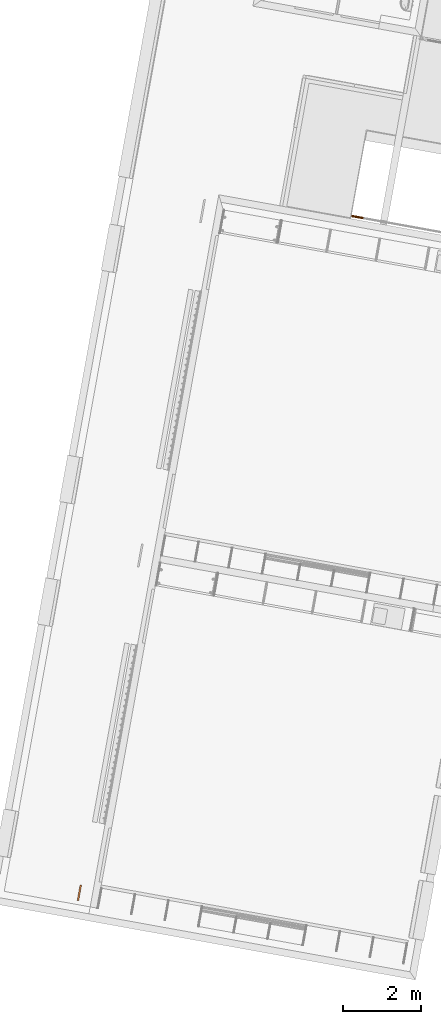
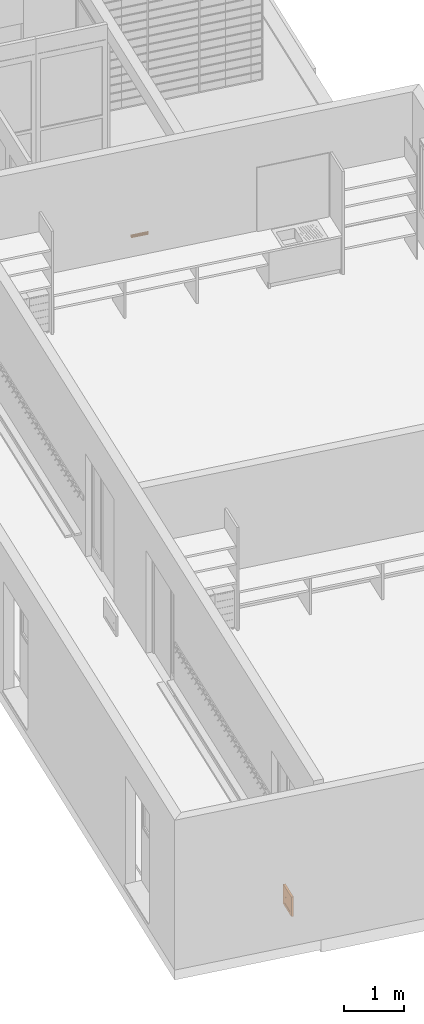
# One storey, part 51 of 52: 2 proxies, 1 element without a shape of its own.
"""IFC2X3 building model written with IfcOpenShell, lengths in metres."""

from ifc_helpers import new_model, entity, si_unit, converted_unit, derived_unit, money_unit, direction, frame, origin_with_axes, place, context, subcontext, project, spatial, open_shell, faceted_brep, surface_model, material, type_object, element, aggregate, save


model = new_model("IFC2X3")

# Units and contexts
model_context = context("Model", 3, precision=1e-05, world=origin_with_axes(), true_north=direction((0.0, 1.0)))
body_context = subcontext(model_context, "Body", "Model", "MODEL_VIEW")
ifc_project = project(units=[si_unit("LENGTHUNIT", "METRE"), si_unit("AREAUNIT", "SQUARE_METRE"), si_unit("VOLUMEUNIT", "CUBIC_METRE"), converted_unit("PLANEANGLEUNIT", "DEGREE", entity("IfcPlaneAngleMeasure", 0.0174532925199), si_unit("PLANEANGLEUNIT", "RADIAN"), dimensions=[0, 0, 0, 0, 0, 0, 0]), money_unit("CHF"), converted_unit("TIMEUNIT", "Year", entity("IfcTimeMeasure", 31556926.0), si_unit("TIMEUNIT", "SECOND"), dimensions=[0, 0, 1, 0, 0, 0, 0]), si_unit("MASSUNIT", "GRAM", prefix="KILO"), si_unit("THERMODYNAMICTEMPERATUREUNIT", "DEGREE_CELSIUS"), si_unit("LUMINOUSINTENSITYUNIT", "LUMEN"), si_unit("ENERGYUNIT", "JOULE", prefix="MEGA"), derived_unit("THERMALCONDUCTANCEUNIT", [(si_unit("POWERUNIT", "WATT"), 1), (si_unit("LENGTHUNIT", "METRE"), -1), (si_unit("THERMODYNAMICTEMPERATUREUNIT", "KELVIN"), -1)]), derived_unit("SPECIFICHEATCAPACITYUNIT", [(si_unit("ENERGYUNIT", "JOULE"), 1), (si_unit("MASSUNIT", "GRAM", prefix="KILO"), -1), (si_unit("THERMODYNAMICTEMPERATUREUNIT", "KELVIN"), -1)]), derived_unit("MASSDENSITYUNIT", [(si_unit("MASSUNIT", "GRAM", prefix="KILO"), 1), (si_unit("VOLUMEUNIT", "CUBIC_METRE"), -1)])], contexts=[model_context])

# Site, building, storey
site_placement = place(None, frame((0.0, 0.0, 0.0), z_axis=(0.0, 0.0, 1.0), x_axis=(-0.177771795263, -0.984071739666, 0.0)))
site = spatial("IfcSite", under=ifc_project, at=site_placement, Name="Site", CompositionType="ELEMENT")
building_placement = place(site_placement, origin_with_axes())
building = spatial("IfcBuilding", under=site, at=building_placement, Name="Bâtiment", CompositionType="ELEMENT")
storey_placement = place(building_placement, frame((0.0, 0.0, 3.2), z_axis=(0.0, 0.0, 1.0), x_axis=(1.0, 0.0, 0.0)))
storey = spatial("IfcBuildingStorey", under=building, at=storey_placement, Name="R+1", CompositionType="ELEMENT", Elevation=3.2)

# Proxies
building_element_proxy_type_1 = type_object("IfcBuildingElementProxyType", Name="Type de garde-corps", PredefinedType="NOTDEFINED")
proxy_1_placement = place(storey_placement, frame((0.0, 0.0, -3.2), z_axis=(0.0, 0.0, 1.0), x_axis=(1.0, 0.0, 0.0)))
proxy_1 = element("IfcBuildingElementProxy", 1, at=proxy_1_placement, inside=storey, type_object=building_element_proxy_type_1, Name="garde-corps esc")
ifc_material_1 = material(Name="Bois - Massif 01")
building_element_proxy_type_2 = type_object("IfcBuildingElementProxyType", Name="IfcBuildingElementProxy", PredefinedType="NOTDEFINED")
proxy_2_placement = place(proxy_1_placement, frame((146.120096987, -153.045380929, 4.05757359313), z_axis=(0.0, 0.0, 1.0), x_axis=(1.0, 0.0, 0.0)))
proxy_2 = element("IfcBuildingElementProxy", 2, at=proxy_2_placement, type_object=building_element_proxy_type_2, material=ifc_material_1, Name="MOBILIER-001", context=body_context, shape_type="Brep", body=[
    faceted_brep([(-0.03, 0.149996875, 0.0424264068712), (-0.0295440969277, 0.148694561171, 0.037216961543), (-0.0295442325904, -0.15, 0.0372169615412), (-0.029544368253, 0.15129928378, 0.0476358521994), (-0.0281910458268, 0.152562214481, 0.0526870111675), (-0.0259811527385, 0.15374729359, 0.0574264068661), (-0.0229818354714, 0.154818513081, 0.0617100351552), (-0.0192842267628, 0.155743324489, 0.065407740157), (-0.0150006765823, 0.156493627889, 0.0684071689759), (-0.0102613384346, 0.157046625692, 0.0706171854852), (-0.00521021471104, 0.157385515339, 0.0719706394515), (-7.8124998e-07, 0.15749999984, 0.072426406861), (0.00520867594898, 0.15738660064, 0.0719706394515), (0.0102598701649, 0.157048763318, 0.0706171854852), (0.0149993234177, 0.156496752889, 0.0684071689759), (0.0192830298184, 0.155747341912, 0.065407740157), (0.0229808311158, 0.154823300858, 0.0617100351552), (0.0259803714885, 0.153752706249, 0.0574264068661), (0.0281905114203, 0.152568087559, 0.0526870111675), (0.0295440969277, 0.151305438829, 0.0476358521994), (0.03, 0.150003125, 0.0424264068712), (0.029544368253, 0.14870071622, 0.037216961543), (0.0281910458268, 0.147437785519, 0.0321658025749), (0.0259811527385, 0.14625270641, 0.0274264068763), (0.0229818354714, 0.145181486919, 0.0231427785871), (0.0192842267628, 0.144256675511, 0.0194450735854), (0.0150006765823, 0.143506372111, 0.0164456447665), (0.0102613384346, 0.142953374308, 0.0142356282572), (0.00521021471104, 0.142614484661, 0.0128821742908), (7.8124998e-07, 0.142500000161, 0.0124264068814), (-0.00520867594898, 0.14261339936, 0.0128821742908), (-0.0102598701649, 0.142951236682, 0.0142356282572), (-0.0149993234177, 0.143503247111, 0.0164456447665), (-0.0192830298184, 0.144252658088, 0.0194450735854), (-0.0229808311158, 0.145176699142, 0.0231427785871), (-0.0259803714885, 0.146247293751, 0.0274264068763), (-0.0281905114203, 0.147431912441, 0.0321658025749), (-0.0281907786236, -0.15, 0.0321658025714), (-0.03, -0.15, 0.0424264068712), (-0.0295442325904, -0.15, 0.0476358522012), (-0.0281907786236, -0.15, 0.052687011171), (-0.0259807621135, -0.15, 0.0574264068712), (-0.0229813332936, -0.15, 0.0617100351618), (-0.0192836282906, -0.15, 0.0654077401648), (-0.015, -0.15, 0.0684071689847), (-0.0102606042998, -0.15, 0.0706171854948), (-0.00520944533, -0.15, 0.0719706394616), (0.0, -0.15, 0.0724264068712), (0.00520944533, -0.15, 0.0719706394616), (0.0102606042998, -0.15, 0.0706171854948), (0.015, -0.15, 0.0684071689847), (0.0192836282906, -0.15, 0.0654077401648), (0.0229813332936, -0.15, 0.0617100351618), (0.0259807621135, -0.15, 0.0574264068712), (0.0281907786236, -0.15, 0.052687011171), (0.0295442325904, -0.15, 0.0476358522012), (0.03, -0.15, 0.0424264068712), (0.0295442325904, -0.15, 0.0372169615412), (0.0281907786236, -0.15, 0.0321658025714), (0.0259807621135, -0.15, 0.0274264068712), (0.0229813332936, -0.15, 0.0231427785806), (0.0192836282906, -0.15, 0.0194450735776), (0.015, -0.15, 0.0164456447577), (0.0102606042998, -0.15, 0.0142356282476), (0.00520944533, -0.15, 0.0128821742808), (0.0, -0.15, 0.0124264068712), (-0.00520944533, -0.15, 0.0128821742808), (-0.0102606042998, -0.15, 0.0142356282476), (-0.015, -0.15, 0.0164456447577), (-0.0192836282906, -0.15, 0.0194450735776), (-0.0229813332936, -0.15, 0.0231427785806), (-0.0259807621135, -0.15, 0.0274264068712)], [[[0, 1, 2]], [[0, 3, 4, 5, 6, 7, 8, 9, 10, 11, 12, 13, 14, 15, 16, 17, 18, 19, 20, 21, 22, 23, 24, 25, 26, 27, 28, 29, 30, 31, 32, 33, 34, 35, 36, 1]], [[1, 37, 2]], [[0, 2, 38]], [[3, 0, 38]], [[4, 3, 39]], [[5, 4, 40]], [[6, 5, 41]], [[7, 6, 42]], [[8, 7, 43, 44]], [[9, 8, 44, 45]], [[10, 9, 45, 46]], [[11, 10, 46, 47]], [[12, 11, 47, 48]], [[13, 12, 48, 49]], [[14, 13, 49, 50]], [[15, 14, 50, 51]], [[16, 15, 51]], [[17, 16, 52]], [[18, 17, 53]], [[19, 18, 54]], [[20, 19, 55]], [[21, 20, 56]], [[22, 21, 57]], [[23, 22, 58]], [[24, 23, 59]], [[25, 24, 60]], [[26, 25, 61, 62]], [[27, 26, 62, 63]], [[28, 27, 63, 64]], [[29, 28, 64, 65]], [[30, 29, 65, 66]], [[31, 30, 66, 67]], [[32, 31, 67, 68]], [[33, 32, 68, 69]], [[34, 33, 69]], [[35, 34, 70]], [[36, 35, 71]], [[1, 36, 37]], [[38, 2, 37, 71, 70, 69, 68, 67, 66, 65, 64, 63, 62, 61, 60, 59, 58, 57, 56, 55, 54, 53, 52, 51, 50, 49, 48, 47, 46, 45, 44, 43, 42, 41, 40, 39]], [[3, 38, 39]], [[4, 39, 40]], [[5, 40, 41]], [[6, 41, 42]], [[7, 42, 43]], [[16, 51, 52]], [[17, 52, 53]], [[18, 53, 54]], [[19, 54, 55]], [[20, 55, 56]], [[21, 56, 57]], [[22, 57, 58]], [[23, 58, 59]], [[24, 59, 60]], [[25, 60, 61]], [[34, 69, 70]], [[35, 70, 71]], [[36, 71, 37]]]),
])
aggregate(proxy_1, [proxy_2])

# Proxy
ifc_material_2 = material(Name="Matériau de construction IFC")
building_element_proxy_type_3 = type_object("IfcBuildingElementProxyType", Name="Trappe-visite_JM", PredefinedType="NOTDEFINED")
proxy_3_placement = place(storey_placement, frame((164.561841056, -156.977152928, 0.1), z_axis=(0.0, 0.0, 1.0), x_axis=(-1.0, 0.0, 0.0)))
element("IfcBuildingElementProxy", 3, at=proxy_3_placement, inside=storey, type_object=building_element_proxy_type_3, material=ifc_material_2, Name="trappe clapet-CF", context=body_context, shape_type="SurfaceModel", body=[
    surface_model("IfcShellBasedSurfaceModel", [(0.0, -0.035, 0.0), (0.0, -0.035, 0.4), (0.4, -0.035, 0.4), (0.4, -0.035, 0.0), (0.06, -0.035, 0.06), (0.34, -0.035, 0.06), (0.34, -0.035, 0.34), (0.06, -0.035, 0.34)], [open_shell([[[0, 1, 2, 3], [4, 5, 6, 7]]])]),
    faceted_brep([(0.0, 0.005, 0.0), (0.4, 0.005, 0.0), (0.4, -0.035, 0.0), (0.0, -0.035, 0.0), (0.0, 0.005, 0.4), (0.4, 0.005, 0.4), (0.06, 0.005, 0.06), (0.34, 0.005, 0.06), (0.34, 0.005, 0.34), (0.06, 0.005, 0.34), (0.4, -0.035, 0.4), (0.0, -0.035, 0.4), (0.06, -0.035, 0.06), (0.06, -0.035, 0.34), (0.34, -0.035, 0.34), (0.34, -0.035, 0.06)], [[[0, 1, 2, 3]], [[0, 4, 5, 1], [6, 7, 8, 9]], [[1, 5, 10, 2]], [[3, 2, 10, 11], [12, 13, 14, 15]], [[4, 0, 3, 11]], [[5, 4, 11, 10]], [[7, 6, 12, 15]], [[8, 7, 15, 14]], [[9, 8, 14, 13]], [[6, 9, 13, 12]]]),
    faceted_brep([(0.34, 0.0, 0.06), (0.34, 0.0, 0.34), (0.34, -0.02, 0.34), (0.34, -0.02, 0.06), (0.06, 0.0, 0.06), (0.06, 0.0, 0.34), (0.3, 0.0, 0.19), (0.3, 0.0, 0.21), (0.28, 0.0, 0.21), (0.28, 0.0, 0.19), (0.06, -0.02, 0.34), (0.06, -0.02, 0.06), (0.3, -0.02, 0.19), (0.28, -0.02, 0.19), (0.28, -0.02, 0.21), (0.3, -0.02, 0.21)], [[[0, 1, 2, 3]], [[0, 4, 5, 1], [6, 7, 8, 9]], [[1, 5, 10, 2]], [[3, 2, 10, 11], [12, 13, 14, 15]], [[4, 0, 3, 11]], [[5, 4, 11, 10]], [[7, 6, 12, 15]], [[8, 7, 15, 14]], [[9, 8, 14, 13]], [[6, 9, 13, 12]]]),
])

save(model, "model.ifc")
